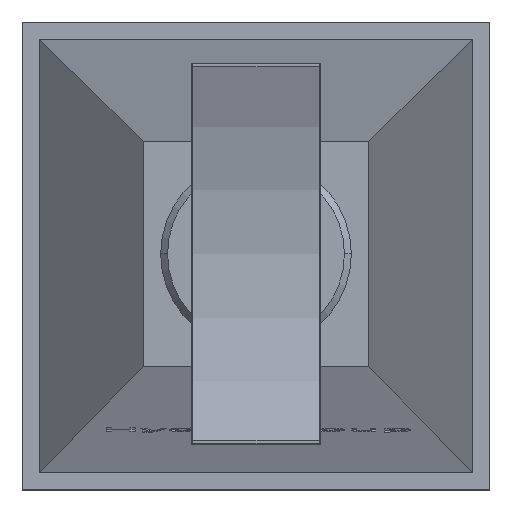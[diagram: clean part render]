
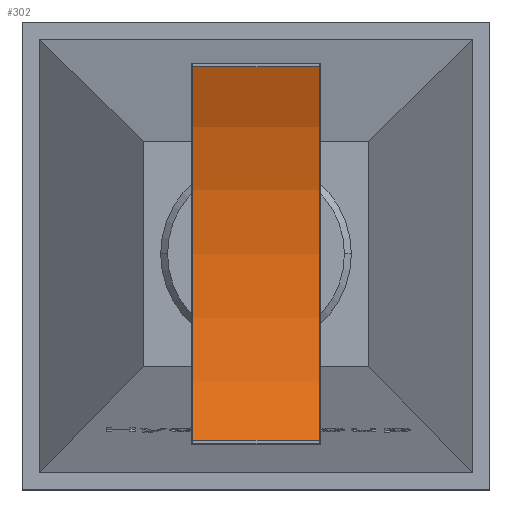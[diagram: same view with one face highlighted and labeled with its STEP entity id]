
A CAD part, top view. The second image highlights one B-rep face of the part: STEP entity #302.
In plain terms, the highlighted cylindrical face has radius 254 mm (diameter 508 mm), a partial arc.
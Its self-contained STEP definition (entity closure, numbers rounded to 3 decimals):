
#302=ADVANCED_FACE('',(#793),#794,.F.);
#793=FACE_OUTER_BOUND('',#1527,.T.);
#794=CYLINDRICAL_SURFACE('',#1528,254.);
#1527=EDGE_LOOP('',(#2259,#2260,#2261,#2262));
#1528=AXIS2_PLACEMENT_3D('',#2263,#2264,#2265);
#2259=ORIENTED_EDGE('',*,*,#4476,.T.);
#2260=ORIENTED_EDGE('',*,*,#4477,.F.);
#2261=ORIENTED_EDGE('',*,*,#4478,.T.);
#2262=ORIENTED_EDGE('',*,*,#4473,.T.);
#2263=CARTESIAN_POINT('',(418.285,536.237,617.));
#2264=DIRECTION('',(1.0,0.,0.));
#2265=DIRECTION('',(0.,1.0,0.));
#4473=EDGE_CURVE('',#5259,#5257,#5260,.T.);
#4476=EDGE_CURVE('',#5257,#5263,#5264,.T.);
#4477=EDGE_CURVE('',#5265,#5263,#5266,.T.);
#4478=EDGE_CURVE('',#5265,#5259,#5267,.T.);
#5257=VERTEX_POINT('',#6403);
#5259=VERTEX_POINT('',#6406);
#5260=LINE('',#6407,#6408);
#5263=VERTEX_POINT('',#6412);
#5264=CIRCLE('',#6413,254.);
#5265=VERTEX_POINT('',#6414);
#5266=LINE('',#6415,#6416);
#5267=CIRCLE('',#6417,254.);
#6403=CARTESIAN_POINT('',(491.285,428.46,387.));
#6406=CARTESIAN_POINT('',(418.285,428.46,387.));
#6407=CARTESIAN_POINT('',(418.285,428.46,387.));
#6408=VECTOR('',#8449,1.0);
#6412=CARTESIAN_POINT('',(491.285,644.015,387.));
#6413=AXIS2_PLACEMENT_3D('',#8451,#8452,#8453);
#6414=CARTESIAN_POINT('',(418.285,644.015,387.));
#6415=CARTESIAN_POINT('',(418.285,644.015,387.));
#6416=VECTOR('',#8454,1.0);
#6417=AXIS2_PLACEMENT_3D('',#8455,#8456,#8457);
#8449=DIRECTION('',(1.0,0.,0.));
#8451=CARTESIAN_POINT('',(491.285,536.237,617.));
#8452=DIRECTION('',(1.0,0.,0.));
#8453=DIRECTION('',(0.,1.0,0.));
#8454=DIRECTION('',(1.0,0.,0.));
#8455=CARTESIAN_POINT('',(418.285,536.237,617.));
#8456=DIRECTION('',(-1.0,0.,0.));
#8457=DIRECTION('',(0.,1.0,0.));
